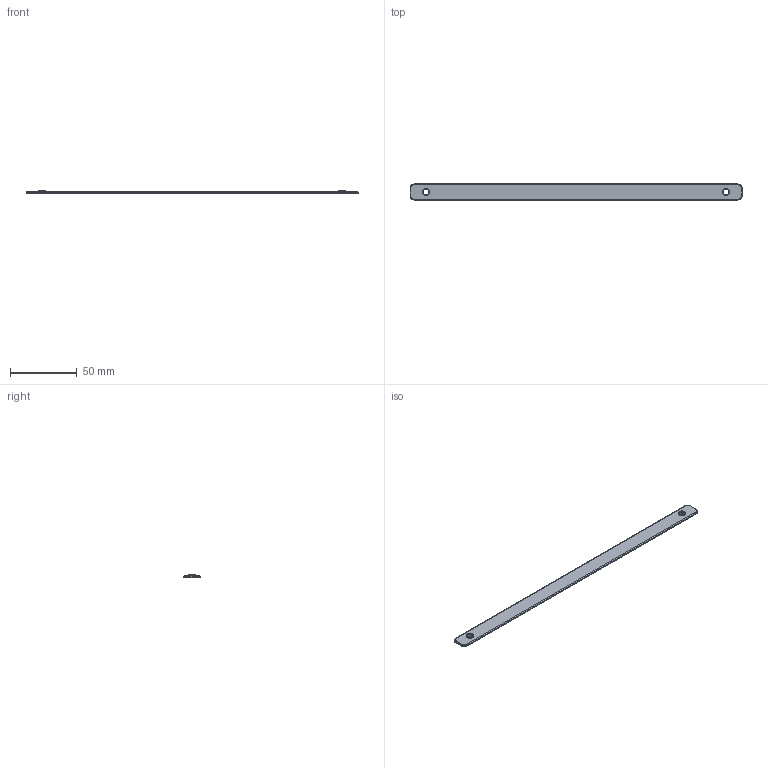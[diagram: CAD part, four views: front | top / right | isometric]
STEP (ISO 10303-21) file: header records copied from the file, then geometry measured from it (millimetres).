
FILE_DESCRIPTION(('Open CASCADE Model'),'2;1');
FILE_NAME('W-BAR-WL224-12','2026-10-19T21:23:52',('Author'),( 'Open CASCADE'),'Open CASCADE STEP processor 8.0','build123d', 'Unknown');
FILE_SCHEMA(('AUTOMOTIVE_DESIGN { 1 0 10303 214 1 1 1 1 }'));
Length unit declared in the file: millimetre
Products named in the file (2): W-BAR-WL224-12; brass_WL224-12__w
Assembly tree (1 placements, depth 2):
  W-BAR-WL224-12
    brass_WL224-12__w
Bounding box: 248 x 12 x 2.49 mm (x, y, z)
Volume: 4381.1 mm3; surface area: 6578.1 mm2
Topology: 1 solids, 1 shells, 32 faces, 68 edges, 40 vertices
Faces by surface type: plane 12, cylinder 12, cone 4, torus 4
Full cylindrical faces by diameter (mm): 4.3 x2, 5 x2
Entity records: 1768 total; most frequent: CARTESIAN_POINT 358, DIRECTION 264, ORIENTED_EDGE 136, PCURVE 136, DEFINITIONAL_REPRESENTATION 136, LINE 124, VECTOR 124, EDGE_CURVE 68
